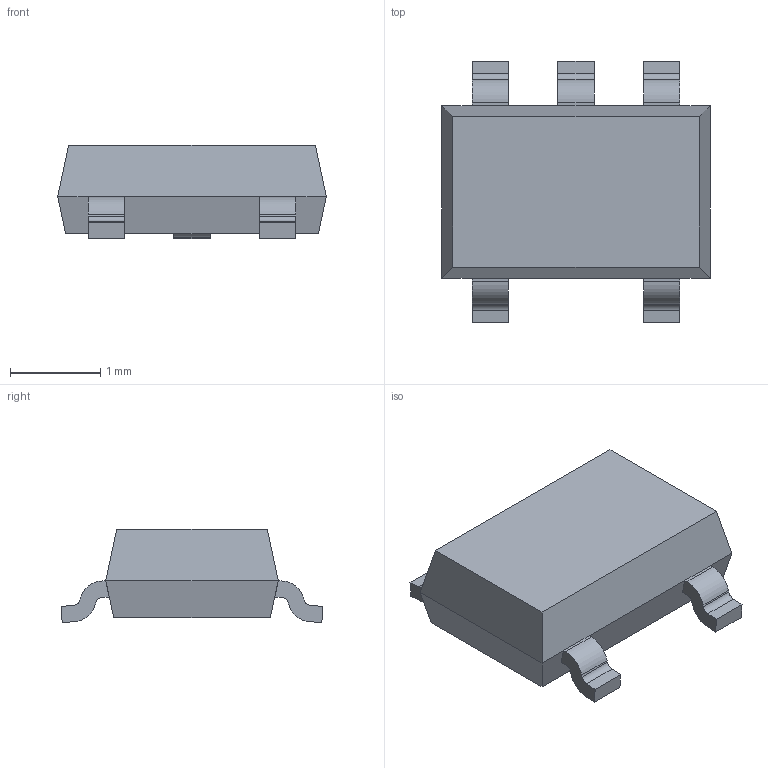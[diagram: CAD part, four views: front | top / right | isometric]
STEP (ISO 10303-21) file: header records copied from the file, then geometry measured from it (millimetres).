
FILE_DESCRIPTION (( 'STEP AP214' ), '1' );
FILE_NAME ('LH5.STEP', '2018-09-28T17:57:52', ( '' ), ( '' ), 'SwSTEP 2.0', 'SolidWorks 2017', '' );
FILE_SCHEMA (( 'AUTOMOTIVE_DESIGN' ));
Length unit declared in the file: millimetre
Products named in the file (1): LH5
Bounding box: 2.98 x 2.9 x 1.03 mm (x, y, z)
Volume: 5.3 mm3; surface area: 22.5 mm2
Topology: 1 solids, 1 shells, 75 faces, 205 edges, 132 vertices
Faces by surface type: plane 55, cylinder 20
Entity records: 2491 total; most frequent: CARTESIAN_POINT 413, ORIENTED_EDGE 410, DIRECTION 397, EDGE_CURVE 205, VECTOR 165, LINE 165, VERTEX_POINT 132, AXIS2_PLACEMENT_3D 116
